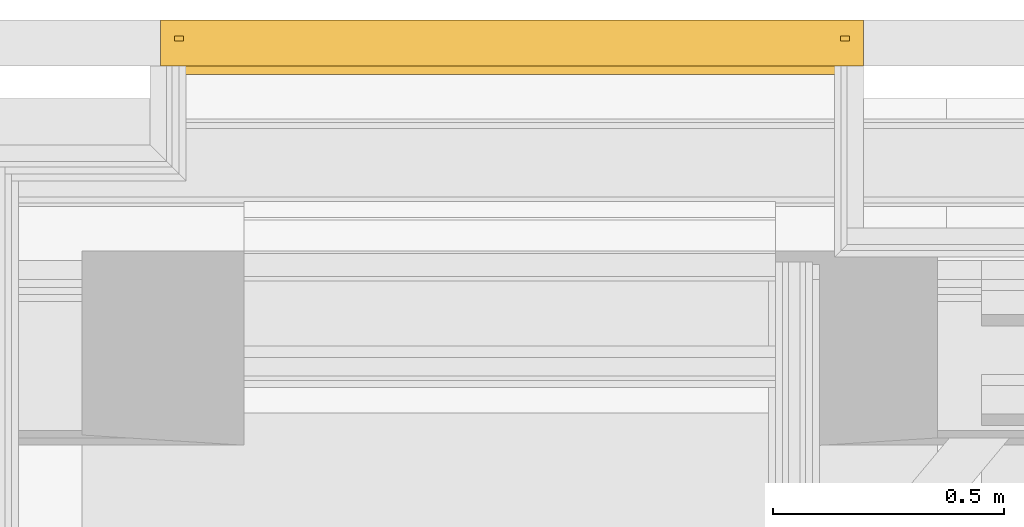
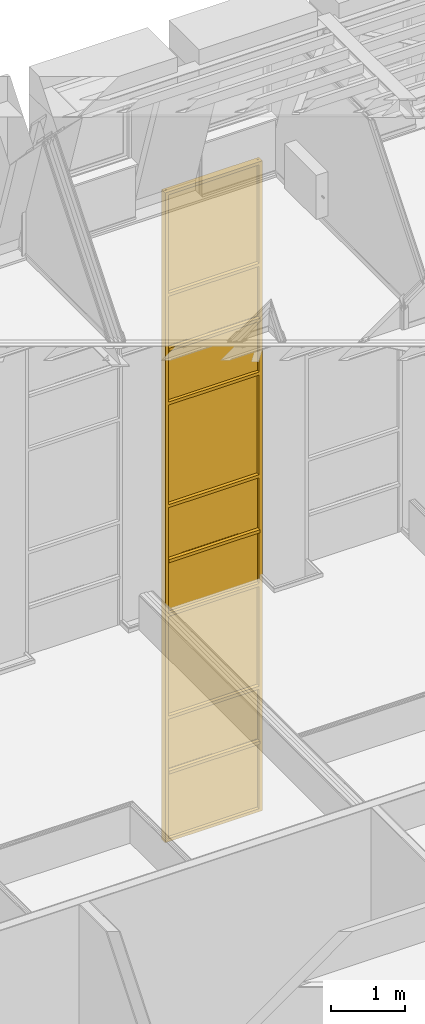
# One storey, part 148 of 183: 1 curtain wall.
"""IFC2X3 building model written with IfcOpenShell, lengths in metres."""

import ifcopenshell
import ifcopenshell.guid

model = None  # the IFC model being written
_history = None  # IfcOwnerHistory: only IFC2X3 demands one
_inside = {}  # id of a spatial element -> (the spatial element, [elements in it])
_under = {}  # id of a project, library or spatial element -> (it, [spatial elements below it])
_declared = {}  # id of a project -> (the project, [libraries it declares])
_typed = {}  # id of a type object -> (the type object, [elements of that type])
_made_of = {}  # id of a material, layer set ... -> (it, [elements and type objects made of it])


def new_model(schema):
    """Start an empty IFC model of exactly this schema.

    Asked for "IFC4X3", IfcOpenShell would pick the latest addendum, in which some entities
    have other attributes; the version numbers below select the first issue.
    IFC2X3 requires an IfcOwnerHistory on every rooted entity: one is made here for all.
    """
    global model, _history
    if schema == "IFC4X3":
        model = ifcopenshell.file(schema_version=(4, 3, 0, 0))
    else:
        model = ifcopenshell.file(schema=schema)
    _inside.clear()
    _under.clear()
    _declared.clear()
    _typed.clear()
    _made_of.clear()
    _history = None
    if model.schema == "IFC2X3":
        org = make("IfcOrganization", Name="unknown")
        user = make(
            "IfcPersonAndOrganization",
            ThePerson=make("IfcPerson", FamilyName="unknown"),
            TheOrganization=org,
        )
        app = make(
            "IfcApplication",
            ApplicationDeveloper=org,
            Version="unknown",
            ApplicationFullName="unknown",
            ApplicationIdentifier="unknown",
        )
        _history = make(
            "IfcOwnerHistory",
            OwningUser=user,
            OwningApplication=app,
            ChangeAction="ADDED",
            CreationDate=0,
        )
    return model


def make(cls, **values):
    """One entity of the class cls with the attributes given. An attribute that is None is left unset."""
    return model.create_entity(
        cls, **{name: value for name, value in values.items() if value is not None}
    )


def entity(cls, *values):
    """Any entity or typed value of the class cls, its attributes in the order of the schema. None: left unset."""
    e = model.create_entity(cls)
    for i, value in enumerate(values):
        if value is not None:
            e[i] = value
    return e


def rooted(cls, **values):
    """An entity with a GlobalId (a new one), such as an element, a storey or a relation."""
    return make(cls, GlobalId=ifcopenshell.guid.new(), OwnerHistory=_history, **values)


def si_unit(unit_type, name, prefix=None):
    """IfcSIUnit, for example si_unit("LENGTHUNIT", "METRE", prefix="MILLI")."""
    return make("IfcSIUnit", UnitType=unit_type, Prefix=prefix, Name=name)


def converted_unit(unit_type, name, factor, base, dimensions=None, offset=None):
    """IfcConversionBasedUnit, such as the inch: factor (a typed value) times the base unit."""
    return make(
        "IfcConversionBasedUnit"
        if offset is None
        else "IfcConversionBasedUnitWithOffset",
        ConversionOffset=offset,
        Dimensions=None
        if dimensions is None
        else entity("IfcDimensionalExponents", *dimensions),
        UnitType=unit_type,
        Name=name,
        ConversionFactor=make(
            "IfcMeasureWithUnit", ValueComponent=factor, UnitComponent=base
        ),
    )


def derived_unit(unit_type, elements):
    """IfcDerivedUnit: a product of units, each with its exponent."""
    return make(
        "IfcDerivedUnit",
        Elements=[
            make("IfcDerivedUnitElement", Unit=unit, Exponent=power)
            for unit, power in elements
        ],
        UnitType=unit_type,
    )


def money_unit(currency):
    """IfcMonetaryUnit."""
    return make("IfcMonetaryUnit", Currency=currency)


def assignment(units):
    """IfcUnitAssignment: the units of a project."""
    return None if units is None else make("IfcUnitAssignment", Units=units)


def point(xyz):
    """IfcCartesianPoint."""
    return None if xyz is None else make("IfcCartesianPoint", Coordinates=xyz)


def direction(xyz):
    """IfcDirection."""
    return None if xyz is None else make("IfcDirection", DirectionRatios=xyz)


def frame(location, z_axis=None, x_axis=None):
    """IfcAxis2Placement3D, a coordinate frame: its origin and axes. An axis left out is left unset."""
    return make(
        "IfcAxis2Placement3D",
        Location=point(location),
        Axis=direction(z_axis),
        RefDirection=direction(x_axis),
    )


def origin_with_axes():
    """The frame at (0, 0, 0) with the z axis (0, 0, 1) and the x axis (1, 0, 0) written out."""
    return frame((0.0, 0.0, 0.0), z_axis=(0.0, 0.0, 1.0), x_axis=(1.0, 0.0, 0.0))


def place(relative_to, where):
    """IfcLocalPlacement: puts the frame where relative to a parent placement (None: the world)."""
    return make(
        "IfcLocalPlacement", PlacementRelTo=relative_to, RelativePlacement=where
    )


def context(
    kind, dimensions, precision=None, world=None, true_north=None, identifier=None
):
    """IfcGeometricRepresentationContext, for example the 3D "Model" context."""
    return make(
        "IfcGeometricRepresentationContext",
        ContextIdentifier=identifier,
        ContextType=kind,
        CoordinateSpaceDimension=dimensions,
        Precision=precision,
        WorldCoordinateSystem=world,
        TrueNorth=true_north,
    )


def subcontext(parent, identifier, kind, view, scale=None):
    """IfcGeometricRepresentationSubContext, for example "Body" below "Model"."""
    return make(
        "IfcGeometricRepresentationSubContext",
        ContextIdentifier=identifier,
        ContextType=kind,
        ParentContext=parent,
        TargetScale=scale,
        TargetView=view,
    )


def project(units=None, contexts=None):
    """IfcProject with its units and contexts."""
    return rooted(
        "IfcProject",
        Name="project",
        RepresentationContexts=contexts,
        UnitsInContext=assignment(units),
    )


def spatial(cls, under=None, at=None, **own):
    """A site, building, storey or space (cls), placed at a placement, below another one or the project."""
    s = rooted(cls, ObjectPlacement=at, **own)
    if under is not None:
        _under.setdefault(under.id(), (under, []))[1].append(s)
    return s


def faces_of(points, faces, orient=None, outer=None):
    """IfcFace entities. A face is a list of loops; a loop is a list of indices into points, from 0.

    orient and outer hold one flag for each loop. By default every Orientation is true, the
    first loop of a face is its IfcFaceOuterBound and the others are IfcFaceBound.
    """
    made = []
    for i, loops in enumerate(faces):
        bounds = []
        for j, loop in enumerate(loops):
            is_outer = j == 0 if outer is None else outer[i][j]
            bounds.append(
                make(
                    "IfcFaceOuterBound" if is_outer else "IfcFaceBound",
                    Bound=make("IfcPolyLoop", Polygon=[points[k] for k in loop]),
                    Orientation=True if orient is None else orient[i][j],
                )
            )
        made.append(make("IfcFace", Bounds=bounds))
    return made


def faceted_brep(points, faces, orient=None, outer=None, voids=None):
    """IfcFacetedBrep: a solid bounded by flat faces; with voids (closed shells), ...WithVoids."""
    shared = [point(p) for p in points]
    hull = make("IfcClosedShell", CfsFaces=faces_of(shared, faces, orient, outer))
    if voids is None:
        return make("IfcFacetedBrep", Outer=hull)
    return make(
        "IfcFacetedBrepWithVoids",
        Outer=hull,
        Voids=[
            make(cls, CfsFaces=faces_of(shared, fs, o, b)) for cls, fs, o, b in voids
        ],
    )


def shape(context_of_items, identifier, shape_type, items):
    """IfcShapeRepresentation: the items that make up one representation, for example the "Body"."""
    return make(
        "IfcShapeRepresentation",
        ContextOfItems=context_of_items,
        RepresentationIdentifier=identifier,
        RepresentationType=shape_type,
        Items=items,
    )


def material(Name=None, Category=None):
    """IfcMaterial."""
    return make("IfcMaterial", Name=Name, Category=Category)


def made_of(thing, what):
    """Note that an element or type object is made of a material, layer set ...; save() writes the relation."""
    if what is not None:
        _made_of.setdefault(what.id(), (what, []))[1].append(thing)
    return thing


def type_object(cls, material=None, **own):
    """A type object (cls), such as IfcWallType, which elements share."""
    return made_of(rooted(cls, **own), material)


def element(
    cls,
    number,
    at=None,
    inside=None,
    cuts=None,
    type_object=None,
    material=None,
    context=None,
    identifier="Body",
    shape_type=None,
    held_by="IfcProductDefinitionShape",
    body=None,
    shapes=None,
    **own,
):
    """One element of the class cls, such as IfcWall. Its Tag is "e" and its number.

    at: its placement. inside: the storey or other place that contains it. cuts: it is an
    opening in that element (IfcRelVoidsElement). A single representation is given by context,
    identifier, shape_type and body (its items); several are given by shapes. held_by: the class
    of the entity that holds the representations. save() writes the other relations.
    """
    e = rooted(cls, Tag="e%d" % number, ObjectPlacement=at, **own)
    if body is not None:
        shapes = [shape(context, identifier, shape_type, body)]
    if shapes is not None:
        e.Representation = make(held_by, Representations=shapes)
    if inside is not None:
        _inside.setdefault(inside.id(), (inside, []))[1].append(e)
    if cuts is not None:
        rooted(
            "IfcRelVoidsElement", RelatingBuildingElement=cuts, RelatedOpeningElement=e
        )
    if type_object is not None:
        _typed.setdefault(type_object.id(), (type_object, []))[1].append(e)
    return made_of(e, material)


def aggregate(whole, parts):
    """IfcRelAggregates: a whole, such as a stair, and the parts it consists of."""
    return rooted("IfcRelAggregates", RelatingObject=whole, RelatedObjects=parts)


def save(model, path):
    """Write the relations noted so far, then the file.

    IfcRelAggregates (storeys below a building ...), IfcRelContainedInSpatialStructure (elements
    in a storey), IfcRelDefinesByType, IfcRelAssociatesMaterial and IfcRelDeclares: one each for
    every whole, place, type object, material and project.
    """
    for whole, parts in _under.values():
        aggregate(whole, parts)
    for where, things in _inside.values():
        rooted(
            "IfcRelContainedInSpatialStructure",
            RelatedElements=things,
            RelatingStructure=where,
        )
    for kind, things in _typed.values():
        rooted("IfcRelDefinesByType", RelatedObjects=things, RelatingType=kind)
    for what, things in _made_of.values():
        rooted("IfcRelAssociatesMaterial", RelatedObjects=things, RelatingMaterial=what)
    for by, libraries in _declared.values():
        rooted("IfcRelDeclares", RelatingContext=by, RelatedDefinitions=libraries)
    model.write(path)


model = new_model("IFC2X3")

# Units and contexts
model_context = context("Model", 3, precision=1e-05, world=origin_with_axes(), true_north=direction((0.0, 1.0)))
body_context = subcontext(model_context, "Body", "Model", "MODEL_VIEW", scale=1.0)
ifc_project = project(units=[si_unit("LENGTHUNIT", "METRE"), si_unit("AREAUNIT", "SQUARE_METRE"), si_unit("VOLUMEUNIT", "CUBIC_METRE"), si_unit("ABSORBEDDOSEUNIT", "GRAY"), si_unit("AMOUNTOFSUBSTANCEUNIT", "MOLE"), si_unit("DOSEEQUIVALENTUNIT", "SIEVERT"), si_unit("ELECTRICCAPACITANCEUNIT", "FARAD"), si_unit("ELECTRICCHARGEUNIT", "COULOMB"), si_unit("ELECTRICCONDUCTANCEUNIT", "SIEMENS"), si_unit("ELECTRICCURRENTUNIT", "AMPERE"), si_unit("ELECTRICRESISTANCEUNIT", "OHM"), si_unit("ELECTRICVOLTAGEUNIT", "VOLT"), si_unit("ENERGYUNIT", "JOULE"), si_unit("FORCEUNIT", "NEWTON"), si_unit("FREQUENCYUNIT", "HERTZ"), si_unit("ILLUMINANCEUNIT", "LUX"), si_unit("INDUCTANCEUNIT", "HENRY"), si_unit("LUMINOUSFLUXUNIT", "LUMEN"), si_unit("LUMINOUSINTENSITYUNIT", "CANDELA"), si_unit("MAGNETICFLUXDENSITYUNIT", "TESLA"), si_unit("MAGNETICFLUXUNIT", "WEBER"), si_unit("MASSUNIT", "GRAM"), converted_unit("PLANEANGLEUNIT", "degree", entity("IfcReal", 0.0174532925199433), si_unit("PLANEANGLEUNIT", "RADIAN"), dimensions=[0, 0, 0, 0, 0, 0, 0]), si_unit("POWERUNIT", "WATT"), si_unit("PRESSUREUNIT", "PASCAL"), si_unit("RADIOACTIVITYUNIT", "BECQUEREL"), si_unit("SOLIDANGLEUNIT", "STERADIAN"), si_unit("THERMODYNAMICTEMPERATUREUNIT", "KELVIN"), si_unit("TIMEUNIT", "SECOND"), derived_unit("ACCELERATIONUNIT", [(si_unit("LENGTHUNIT", "METRE"), 1), (si_unit("TIMEUNIT", "SECOND"), -2)]), derived_unit("ANGULARVELOCITYUNIT", [(converted_unit("PLANEANGLEUNIT", "degree", entity("IfcReal", 0.0174532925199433), si_unit("PLANEANGLEUNIT", "RADIAN"), dimensions=[0, 0, 0, 0, 0, 0, 0]), 1), (si_unit("TIMEUNIT", "SECOND"), -1)]), derived_unit("CURVATUREUNIT", [(converted_unit("PLANEANGLEUNIT", "degree", entity("IfcReal", 0.0174532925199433), si_unit("PLANEANGLEUNIT", "RADIAN"), dimensions=[0, 0, 0, 0, 0, 0, 0]), 1), (si_unit("LENGTHUNIT", "METRE"), -1)]), derived_unit("DYNAMICVISCOSITYUNIT", [(si_unit("PRESSUREUNIT", "PASCAL"), 1), (si_unit("TIMEUNIT", "SECOND"), 1)]), derived_unit("HEATFLUXDENSITYUNIT", [(si_unit("POWERUNIT", "WATT"), 1), (si_unit("LENGTHUNIT", "METRE"), -2)]), derived_unit("HEATINGVALUEUNIT", [(si_unit("ENERGYUNIT", "JOULE"), 1), (si_unit("MASSUNIT", "GRAM"), -1)]), derived_unit("INTEGERCOUNTRATEUNIT", [(si_unit("TIMEUNIT", "SECOND"), -1)]), derived_unit("IONCONCENTRATIONUNIT", [(si_unit("MASSUNIT", "GRAM"), 1), (si_unit("VOLUMEUNIT", "CUBIC_METRE"), -1)]), derived_unit("ISOTHERMALMOISTURECAPACITYUNIT", [(si_unit("VOLUMEUNIT", "CUBIC_METRE"), 1), (si_unit("MASSUNIT", "GRAM"), -1)]), derived_unit("KINEMATICVISCOSITYUNIT", [(si_unit("AREAUNIT", "SQUARE_METRE"), 1), (si_unit("TIMEUNIT", "SECOND"), -1)]), derived_unit("LINEARFORCEUNIT", [(si_unit("FORCEUNIT", "NEWTON"), 1), (si_unit("LENGTHUNIT", "METRE"), -1)]), derived_unit("LINEARMOMENTUNIT", [(si_unit("FORCEUNIT", "NEWTON"), 1), (si_unit("LENGTHUNIT", "METRE"), -1)]), derived_unit("LINEARSTIFFNESSUNIT", [(si_unit("FORCEUNIT", "NEWTON"), 1), (si_unit("LENGTHUNIT", "METRE"), -1)]), derived_unit("LINEARVELOCITYUNIT", [(si_unit("LENGTHUNIT", "METRE"), 1), (si_unit("TIMEUNIT", "SECOND"), -1)]), derived_unit("LUMINOUSINTENSITYDISTRIBUTIONUNIT", [(si_unit("LUMINOUSINTENSITYUNIT", "CANDELA"), 1), (si_unit("LUMINOUSFLUXUNIT", "LUMEN"), -1)]), derived_unit("MASSDENSITYUNIT", [(si_unit("MASSUNIT", "GRAM"), 1), (si_unit("VOLUMEUNIT", "CUBIC_METRE"), -1)]), derived_unit("MASSFLOWRATEUNIT", [(si_unit("MASSUNIT", "GRAM"), 1), (si_unit("TIMEUNIT", "SECOND"), -1)]), derived_unit("MASSPERLENGTHUNIT", [(si_unit("MASSUNIT", "GRAM"), 1), (si_unit("LENGTHUNIT", "METRE"), -1)]), derived_unit("MODULUSOFELASTICITYUNIT", [(si_unit("FORCEUNIT", "NEWTON"), 1), (si_unit("AREAUNIT", "SQUARE_METRE"), -1)]), derived_unit("MODULUSOFLINEARSUBGRADEREACTIONUNIT", [(si_unit("FORCEUNIT", "NEWTON"), 1), (si_unit("LENGTHUNIT", "METRE"), -2)]), derived_unit("MODULUSOFROTATIONALSUBGRADEREACTIONUNIT", [(si_unit("FORCEUNIT", "NEWTON"), 1), (si_unit("LENGTHUNIT", "METRE"), 1)]), derived_unit("MODULUSOFSUBGRADEREACTIONUNIT", [(si_unit("FORCEUNIT", "NEWTON"), 1), (si_unit("VOLUMEUNIT", "CUBIC_METRE"), -1)]), derived_unit("MOISTUREDIFFUSIVITYUNIT", [(si_unit("VOLUMEUNIT", "CUBIC_METRE"), 1), (si_unit("TIMEUNIT", "SECOND"), -1)]), derived_unit("MOLECULARWEIGHTUNIT", [(si_unit("MASSUNIT", "GRAM"), 1), (si_unit("AMOUNTOFSUBSTANCEUNIT", "MOLE"), -1)]), derived_unit("PLANARFORCEUNIT", [(si_unit("FORCEUNIT", "NEWTON"), 1), (si_unit("LENGTHUNIT", "METRE"), -2)]), derived_unit("ROTATIONALFREQUENCYUNIT", [(si_unit("TIMEUNIT", "SECOND"), -1)]), derived_unit("ROTATIONALMASSUNIT", [(si_unit("MASSUNIT", "GRAM"), 1), (si_unit("LENGTHUNIT", "METRE"), 2)]), derived_unit("ROTATIONALSTIFFNESSUNIT", [(si_unit("FORCEUNIT", "NEWTON"), 1), (si_unit("LENGTHUNIT", "METRE"), 1), (converted_unit("PLANEANGLEUNIT", "degree", entity("IfcReal", 0.0174532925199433), si_unit("PLANEANGLEUNIT", "RADIAN"), dimensions=[0, 0, 0, 0, 0, 0, 0]), -1)]), derived_unit("SECTIONAREAINTEGRALUNIT", [(si_unit("LENGTHUNIT", "METRE"), 5)]), derived_unit("SECTIONMODULUSUNIT", [(si_unit("LENGTHUNIT", "METRE"), 3)]), derived_unit("SHEARMODULUSUNIT", [(si_unit("FORCEUNIT", "NEWTON"), 1), (si_unit("AREAUNIT", "SQUARE_METRE"), -1)]), derived_unit("SOUNDPOWERUNIT", [(si_unit("ENERGYUNIT", "JOULE"), 1), (si_unit("TIMEUNIT", "SECOND"), -1)]), derived_unit("SPECIFICHEATCAPACITYUNIT", [(si_unit("FORCEUNIT", "NEWTON"), 1), (si_unit("MASSUNIT", "GRAM"), -1), (si_unit("THERMODYNAMICTEMPERATUREUNIT", "KELVIN"), -1)]), derived_unit("TEMPERATUREGRADIENTUNIT", [(si_unit("THERMODYNAMICTEMPERATUREUNIT", "KELVIN"), 1), (si_unit("LENGTHUNIT", "METRE"), -1)]), derived_unit("THERMALADMITTANCEUNIT", [(si_unit("POWERUNIT", "WATT"), 1), (si_unit("AREAUNIT", "SQUARE_METRE"), -1), (si_unit("THERMODYNAMICTEMPERATUREUNIT", "KELVIN"), -1)]), derived_unit("THERMALCONDUCTANCEUNIT", [(si_unit("POWERUNIT", "WATT"), 1), (si_unit("LENGTHUNIT", "METRE"), -1), (si_unit("THERMODYNAMICTEMPERATUREUNIT", "KELVIN"), -1)]), derived_unit("THERMALEXPANSIONCOEFFICIENTUNIT", [(si_unit("THERMODYNAMICTEMPERATUREUNIT", "KELVIN"), -1)]), derived_unit("THERMALRESISTANCEUNIT", [(si_unit("AREAUNIT", "SQUARE_METRE"), 1), (si_unit("POWERUNIT", "WATT"), -1)]), derived_unit("THERMALTRANSMITTANCEUNIT", [(si_unit("POWERUNIT", "WATT"), 1), (si_unit("AREAUNIT", "SQUARE_METRE"), -1), (si_unit("THERMODYNAMICTEMPERATUREUNIT", "KELVIN"), -1)]), derived_unit("TORQUEUNIT", [(si_unit("FORCEUNIT", "NEWTON"), 1), (si_unit("LENGTHUNIT", "METRE"), 1)]), derived_unit("VAPORPERMEABILITYUNIT", [(si_unit("MASSUNIT", "GRAM"), 1), (si_unit("TIMEUNIT", "SECOND"), -1)]), derived_unit("VOLUMETRICFLOWRATEUNIT", [(si_unit("VOLUMEUNIT", "CUBIC_METRE"), 1), (si_unit("TIMEUNIT", "SECOND"), -1)]), derived_unit("WARPINGCONSTANTUNIT", [(si_unit("LENGTHUNIT", "METRE"), 6)]), derived_unit("WARPINGMOMENTUNIT", [(si_unit("FORCEUNIT", "NEWTON"), 1), (si_unit("LENGTHUNIT", "METRE"), 2)]), money_unit("GBP")], contexts=[model_context])

# Site, building, storey
site_placement = place(None, origin_with_axes())
site = spatial("IfcSite", under=ifc_project, at=site_placement, Name="Site", CompositionType="ELEMENT")
building_placement = place(site_placement, origin_with_axes())
building = spatial("IfcBuilding", under=site, at=building_placement, Name="Building01", CompositionType="ELEMENT")
storey_placement = place(building_placement, frame((0.0, 0.0, 5.15), z_axis=(0.0, 0.0, 1.0), x_axis=(1.0, 0.0, 0.0)))
storey = spatial("IfcBuildingStorey", under=building, at=storey_placement, Name="1F", CompositionType="ELEMENT", Elevation=5.15)

# Curtain wall
ifc_material = material(Name="A-CurtainWall_Frame")
curtain_wall_type = type_object("IfcCurtainWallType", Name="Pattern - Maximum Spacing", PredefinedType="NOTDEFINED")
curtain_wall_placement = place(storey_placement, frame((0.0, 0.0, -5.15), z_axis=(0.0, 0.0, 1.0), x_axis=(1.0, 0.0, 0.0)))
element("IfcCurtainWall", 1, at=curtain_wall_placement, inside=storey, type_object=curtain_wall_type, material=ifc_material, Name="05", ObjectType="Pattern - Maximum Spacing", context=body_context, shape_type="Brep", body=[
    faceted_brep([(17.52, 14.85, 5.118945), (17.52, 14.87, 5.118945), (16.06, 14.87, 5.118945), (16.06, 14.85, 5.118945), (17.52, 14.85, 4.0), (17.52, 14.87, 4.0), (16.06, 14.85, 4.0), (16.06, 14.87, 4.0)], [[[0, 1, 2, 3]], [[4, 5, 1, 0]], [[6, 7, 5, 4]], [[3, 2, 7, 6]], [[1, 5, 7, 2]], [[3, 6, 4, 0]]]),
    faceted_brep([(16.03, 14.9, 3.97), (16.08, 14.9, 3.97), (16.08, 14.865, 3.97), (16.06, 14.865, 3.97), (16.06, 14.855, 3.97), (16.08, 14.855, 3.97), (16.08, 14.8, 3.97), (16.03, 14.8, 3.97), (16.03, 14.8, 5.123945), (16.03, 14.9, 5.123945), (16.08, 14.9, 5.123945), (16.08, 14.865, 5.123945), (16.06, 14.865, 5.123945), (16.06, 14.855, 5.123945), (16.08, 14.855, 5.123945), (16.08, 14.8, 5.123945)], [[[0, 1, 2, 3, 4, 5, 6, 7]], [[7, 8, 9, 0]], [[0, 9, 10, 1]], [[1, 10, 11, 2]], [[2, 11, 12, 3]], [[3, 12, 13, 4]], [[4, 13, 14, 5]], [[5, 14, 15, 6]], [[6, 15, 8, 7]]]),
    faceted_brep([(17.5, 14.9, 4.02), (17.5, 14.865, 4.02), (17.5, 14.865, 4.0), (17.5, 14.855, 4.0), (17.5, 14.855, 4.02), (17.5, 14.8, 4.02), (17.5, 14.8, 3.97), (17.5, 14.9, 3.97), (16.08, 14.9, 3.97), (16.08, 14.9, 4.02), (16.08, 14.865, 4.02), (16.08, 14.865, 4.0), (16.08, 14.855, 4.0), (16.08, 14.855, 4.02), (16.08, 14.8, 4.02), (16.08, 14.8, 3.97)], [[[0, 1, 2, 3, 4, 5, 6, 7]], [[7, 8, 9, 0]], [[0, 9, 10, 1]], [[1, 10, 11, 2]], [[2, 11, 12, 3]], [[3, 12, 13, 4]], [[4, 13, 14, 5]], [[5, 14, 15, 6]], [[6, 15, 8, 7]], [[8, 15, 14, 13, 12, 11, 10, 9]]]),
    faceted_brep([(17.55, 14.9, 3.97), (17.55, 14.9, 5.123945), (17.55, 14.8, 5.123945), (17.55, 14.8, 3.97), (17.5, 14.9, 3.97), (17.5, 14.9, 5.123945), (17.5, 14.865, 3.97), (17.5, 14.865, 5.123945), (17.52, 14.865, 3.97), (17.52, 14.865, 5.123945), (17.52, 14.855, 3.97), (17.52, 14.855, 5.123945), (17.5, 14.855, 3.97), (17.5, 14.855, 5.123945), (17.5, 14.8, 3.97), (17.5, 14.8, 5.123945)], [[[0, 1, 2, 3]], [[4, 5, 1, 0]], [[6, 7, 5, 4]], [[8, 9, 7, 6]], [[10, 11, 9, 8]], [[12, 13, 11, 10]], [[14, 15, 13, 12]], [[3, 2, 15, 14]], [[14, 12, 10, 8, 6, 4, 0, 3]]]),
    faceted_brep([(16.08, 14.8375, 5.128945), (16.08, 14.8475, 5.128945), (16.08, 14.8475, 5.148945), (16.08, 14.8825, 5.148945), (16.08, 14.8825, 5.098945), (16.08, 14.8475, 5.098945), (16.08, 14.8475, 5.118945), (16.08, 14.8375, 5.118945), (16.08, 14.8375, 5.098945), (16.08, 14.7825, 5.098945), (16.08, 14.7825, 5.148945), (16.08, 14.8375, 5.148945), (17.5, 14.8375, 5.148945), (17.5, 14.8375, 5.128945), (17.5, 14.8475, 5.128945), (17.5, 14.8475, 5.148945), (17.5, 14.8825, 5.148945), (17.5, 14.8825, 5.098945), (17.5, 14.8475, 5.098945), (17.5, 14.8375, 5.118945), (17.5, 14.8375, 5.098945), (17.5, 14.8475, 5.118945), (17.5, 14.7825, 5.148945), (17.5, 14.7825, 5.098945)], [[[0, 1, 2, 3, 4, 5, 6, 7, 8, 9, 10, 11]], [[11, 12, 13, 0]], [[0, 13, 14, 1]], [[1, 14, 15, 2]], [[2, 15, 16, 3]], [[3, 16, 17, 4]], [[4, 17, 18, 5]], [[7, 19, 20, 8]], [[6, 21, 19, 7]], [[5, 18, 21, 6]], [[10, 22, 12, 11]], [[9, 23, 22, 10]], [[8, 20, 23, 9]], [[20, 19, 21, 18, 17, 16, 15, 14, 13, 12, 22, 23]]]),
    faceted_brep([(17.52, 14.85, 6.018105), (17.52, 14.87, 6.018105), (16.06, 14.87, 6.018105), (16.06, 14.85, 6.018105), (17.52, 14.85, 5.128945), (17.52, 14.87, 5.128945), (16.06, 14.85, 5.128945), (16.06, 14.87, 5.128945)], [[[0, 1, 2, 3]], [[4, 5, 1, 0]], [[6, 7, 5, 4]], [[3, 2, 7, 6]], [[1, 5, 7, 2]], [[3, 6, 4, 0]]]),
    faceted_brep([(16.08, 14.8, 6.023105), (16.08, 14.8, 5.123945), (16.08, 14.855, 5.123945), (16.08, 14.855, 6.023105), (16.03, 14.8, 6.023105), (16.03, 14.8, 5.123945), (16.03, 14.9, 6.023105), (16.03, 14.9, 5.123945), (16.08, 14.9, 6.023105), (16.08, 14.9, 5.123945), (16.08, 14.865, 6.023105), (16.08, 14.865, 5.123945), (16.06, 14.865, 6.023105), (16.06, 14.865, 5.123945), (16.06, 14.855, 6.023105), (16.06, 14.855, 5.123945)], [[[0, 1, 2, 3]], [[4, 5, 1, 0]], [[6, 7, 5, 4]], [[8, 9, 7, 6]], [[10, 11, 9, 8]], [[12, 13, 11, 10]], [[14, 15, 13, 12]], [[3, 2, 15, 14]]]),
    faceted_brep([(17.55, 14.9, 5.123945), (17.55, 14.9, 6.023105), (17.55, 14.8, 6.023105), (17.55, 14.8, 5.123945), (17.5, 14.9, 5.123945), (17.5, 14.9, 6.023105), (17.5, 14.865, 5.123945), (17.5, 14.865, 6.023105), (17.52, 14.865, 5.123945), (17.52, 14.865, 6.023105), (17.52, 14.855, 5.123945), (17.52, 14.855, 6.023105), (17.5, 14.855, 5.123945), (17.5, 14.855, 6.023105), (17.5, 14.8, 5.123945), (17.5, 14.8, 6.023105)], [[[0, 1, 2, 3]], [[4, 5, 1, 0]], [[6, 7, 5, 4]], [[8, 9, 7, 6]], [[10, 11, 9, 8]], [[12, 13, 11, 10]], [[14, 15, 13, 12]], [[3, 2, 15, 14]]]),
    faceted_brep([(16.08, 14.855, 6.028105), (16.08, 14.865, 6.028105), (16.08, 14.865, 6.048105), (16.08, 14.9, 6.048105), (16.08, 14.9, 5.998105), (16.08, 14.865, 5.998105), (16.08, 14.865, 6.018105), (16.08, 14.855, 6.018105), (16.08, 14.855, 5.998105), (16.08, 14.8, 5.998105), (16.08, 14.8, 6.048105), (16.08, 14.855, 6.048105), (17.5, 14.855, 6.048105), (17.5, 14.855, 6.028105), (17.5, 14.865, 6.028105), (17.5, 14.865, 6.048105), (17.5, 14.9, 6.048105), (17.5, 14.9, 5.998105), (17.5, 14.865, 5.998105), (17.5, 14.855, 6.018105), (17.5, 14.855, 5.998105), (17.5, 14.865, 6.018105), (17.5, 14.8, 6.048105), (17.5, 14.8, 5.998105)], [[[0, 1, 2, 3, 4, 5, 6, 7, 8, 9, 10, 11]], [[11, 12, 13, 0]], [[0, 13, 14, 1]], [[1, 14, 15, 2]], [[2, 15, 16, 3]], [[3, 16, 17, 4]], [[4, 17, 18, 5]], [[7, 19, 20, 8]], [[6, 21, 19, 7]], [[5, 18, 21, 6]], [[10, 22, 12, 11]], [[9, 23, 22, 10]], [[8, 20, 23, 9]], [[20, 19, 21, 18, 17, 16, 15, 14, 13, 12, 22, 23]]]),
    faceted_brep([(17.52, 14.855, 7.716517), (17.52, 14.865, 7.716517), (16.06, 14.865, 7.716517), (16.06, 14.855, 7.716517), (17.52, 14.855, 6.028105), (17.52, 14.865, 6.028105), (16.06, 14.855, 6.028105), (16.06, 14.865, 6.028105)], [[[0, 1, 2, 3]], [[4, 5, 1, 0]], [[6, 7, 5, 4]], [[3, 2, 7, 6]], [[1, 5, 7, 2]], [[3, 6, 4, 0]]]),
    faceted_brep([(16.08, 14.8, 7.721517), (16.08, 14.8, 6.023105), (16.08, 14.855, 6.023105), (16.08, 14.855, 7.721517), (16.03, 14.8, 7.721517), (16.03, 14.8, 6.023105), (16.03, 14.9, 7.721517), (16.03, 14.9, 6.023105), (16.08, 14.9, 7.721517), (16.08, 14.9, 6.023105), (16.08, 14.865, 7.721517), (16.08, 14.865, 6.023105), (16.06, 14.865, 7.721517), (16.06, 14.865, 6.023105), (16.06, 14.855, 7.721517), (16.06, 14.855, 6.023105)], [[[0, 1, 2, 3]], [[4, 5, 1, 0]], [[6, 7, 5, 4]], [[8, 9, 7, 6]], [[10, 11, 9, 8]], [[12, 13, 11, 10]], [[14, 15, 13, 12]], [[3, 2, 15, 14]]]),
    faceted_brep([(17.55, 14.9, 6.023105), (17.55, 14.9, 7.721517), (17.55, 14.8, 7.721517), (17.55, 14.8, 6.023105), (17.5, 14.9, 6.023105), (17.5, 14.9, 7.721517), (17.5, 14.865, 6.023105), (17.5, 14.865, 7.721517), (17.52, 14.865, 6.023105), (17.52, 14.865, 7.721517), (17.52, 14.855, 6.023105), (17.52, 14.855, 7.721517), (17.5, 14.855, 6.023105), (17.5, 14.855, 7.721517), (17.5, 14.8, 6.023105), (17.5, 14.8, 7.721517)], [[[0, 1, 2, 3]], [[4, 5, 1, 0]], [[6, 7, 5, 4]], [[8, 9, 7, 6]], [[10, 11, 9, 8]], [[12, 13, 11, 10]], [[14, 15, 13, 12]], [[3, 2, 15, 14]]]),
    faceted_brep([(16.08, 14.855, 7.726517), (16.08, 14.865, 7.726517), (16.08, 14.865, 7.746517), (16.08, 14.9, 7.746517), (16.08, 14.9, 7.696517), (16.08, 14.865, 7.696517), (16.08, 14.865, 7.716517), (16.08, 14.855, 7.716517), (16.08, 14.855, 7.696517), (16.08, 14.8, 7.696517), (16.08, 14.8, 7.746517), (16.08, 14.855, 7.746517), (17.5, 14.855, 7.746517), (17.5, 14.855, 7.726517), (17.5, 14.865, 7.726517), (17.5, 14.865, 7.746517), (17.5, 14.9, 7.746517), (17.5, 14.9, 7.696517), (17.5, 14.865, 7.696517), (17.5, 14.855, 7.716517), (17.5, 14.855, 7.696517), (17.5, 14.865, 7.716517), (17.5, 14.8, 7.746517), (17.5, 14.8, 7.696517)], [[[0, 1, 2, 3, 4, 5, 6, 7, 8, 9, 10, 11]], [[11, 12, 13, 0]], [[0, 13, 14, 1]], [[1, 14, 15, 2]], [[2, 15, 16, 3]], [[3, 16, 17, 4]], [[4, 17, 18, 5]], [[7, 19, 20, 8]], [[6, 21, 19, 7]], [[5, 18, 21, 6]], [[10, 22, 12, 11]], [[9, 23, 22, 10]], [[8, 20, 23, 9]], [[20, 19, 21, 18, 17, 16, 15, 14, 13, 12, 22, 23]]]),
    faceted_brep([(17.52, 14.85, 8.615677), (17.52, 14.87, 8.615677), (16.06, 14.87, 8.615677), (16.06, 14.85, 8.615677), (17.52, 14.85, 7.726517), (17.52, 14.87, 7.726517), (16.06, 14.85, 7.726517), (16.06, 14.87, 7.726517)], [[[0, 1, 2, 3]], [[4, 5, 1, 0]], [[6, 7, 5, 4]], [[3, 2, 7, 6]], [[1, 5, 7, 2]], [[3, 6, 4, 0]]]),
    faceted_brep([(16.08, 14.8, 8.620677), (16.08, 14.8, 7.721517), (16.08, 14.855, 7.721517), (16.08, 14.855, 8.620677), (16.03, 14.8, 8.620677), (16.03, 14.8, 7.721517), (16.03, 14.9, 8.620677), (16.03, 14.9, 7.721517), (16.08, 14.9, 8.620677), (16.08, 14.9, 7.721517), (16.08, 14.865, 8.620677), (16.08, 14.865, 7.721517), (16.06, 14.865, 8.620677), (16.06, 14.865, 7.721517), (16.06, 14.855, 8.620677), (16.06, 14.855, 7.721517)], [[[0, 1, 2, 3]], [[4, 5, 1, 0]], [[6, 7, 5, 4]], [[8, 9, 7, 6]], [[10, 11, 9, 8]], [[12, 13, 11, 10]], [[14, 15, 13, 12]], [[3, 2, 15, 14]]]),
    faceted_brep([(17.55, 14.9, 7.721517), (17.55, 14.9, 8.620677), (17.55, 14.8, 8.620677), (17.55, 14.8, 7.721517), (17.5, 14.9, 7.721517), (17.5, 14.9, 8.620677), (17.5, 14.865, 7.721517), (17.5, 14.865, 8.620677), (17.52, 14.865, 7.721517), (17.52, 14.865, 8.620677), (17.52, 14.855, 7.721517), (17.52, 14.855, 8.620677), (17.5, 14.855, 7.721517), (17.5, 14.855, 8.620677), (17.5, 14.8, 7.721517), (17.5, 14.8, 8.620677)], [[[0, 1, 2, 3]], [[4, 5, 1, 0]], [[6, 7, 5, 4]], [[8, 9, 7, 6]], [[10, 11, 9, 8]], [[12, 13, 11, 10]], [[14, 15, 13, 12]], [[3, 2, 15, 14]]]),
    faceted_brep([(16.08, 14.8375, 8.625677), (16.08, 14.8475, 8.625677), (16.08, 14.8475, 8.645677), (16.08, 14.8825, 8.645677), (16.08, 14.8825, 8.595677), (16.08, 14.8475, 8.595677), (16.08, 14.8475, 8.615677), (16.08, 14.8375, 8.615677), (16.08, 14.8375, 8.595677), (16.08, 14.7825, 8.595677), (16.08, 14.7825, 8.645677), (16.08, 14.8375, 8.645677), (17.5, 14.8375, 8.645677), (17.5, 14.8375, 8.625677), (17.5, 14.8475, 8.625677), (17.5, 14.8475, 8.645677), (17.5, 14.8825, 8.645677), (17.5, 14.8825, 8.595677), (17.5, 14.8475, 8.595677), (17.5, 14.8375, 8.615677), (17.5, 14.8375, 8.595677), (17.5, 14.8475, 8.615677), (17.5, 14.7825, 8.645677), (17.5, 14.7825, 8.595677)], [[[0, 1, 2, 3, 4, 5, 6, 7, 8, 9, 10, 11]], [[11, 12, 13, 0]], [[0, 13, 14, 1]], [[1, 14, 15, 2]], [[2, 15, 16, 3]], [[3, 16, 17, 4]], [[4, 17, 18, 5]], [[7, 19, 20, 8]], [[6, 21, 19, 7]], [[5, 18, 21, 6]], [[10, 22, 12, 11]], [[9, 23, 22, 10]], [[8, 20, 23, 9]], [[20, 19, 21, 18, 17, 16, 15, 14, 13, 12, 22, 23]]]),
    faceted_brep([(17.52, 14.85, 9.514837), (17.52, 14.87, 9.514837), (16.06, 14.87, 9.514837), (16.06, 14.85, 9.514837), (17.52, 14.85, 8.625677), (17.52, 14.87, 8.625677), (16.06, 14.85, 8.625677), (16.06, 14.87, 8.625677)], [[[0, 1, 2, 3]], [[4, 5, 1, 0]], [[6, 7, 5, 4]], [[3, 2, 7, 6]], [[1, 5, 7, 2]], [[3, 6, 4, 0]]]),
    faceted_brep([(16.08, 14.8, 9.519837), (16.08, 14.8, 8.620677), (16.08, 14.855, 8.620677), (16.08, 14.855, 9.519837), (16.03, 14.8, 9.519837), (16.03, 14.8, 8.620677), (16.03, 14.9, 9.519837), (16.03, 14.9, 8.620677), (16.08, 14.9, 9.519837), (16.08, 14.9, 8.620677), (16.08, 14.865, 9.519837), (16.08, 14.865, 8.620677), (16.06, 14.865, 9.519837), (16.06, 14.865, 8.620677), (16.06, 14.855, 9.519837), (16.06, 14.855, 8.620677)], [[[0, 1, 2, 3]], [[4, 5, 1, 0]], [[6, 7, 5, 4]], [[8, 9, 7, 6]], [[10, 11, 9, 8]], [[12, 13, 11, 10]], [[14, 15, 13, 12]], [[3, 2, 15, 14]]]),
    faceted_brep([(17.55, 14.9, 8.620677), (17.55, 14.9, 9.519837), (17.55, 14.8, 9.519837), (17.55, 14.8, 8.620677), (17.5, 14.9, 8.620677), (17.5, 14.9, 9.519837), (17.5, 14.865, 8.620677), (17.5, 14.865, 9.519837), (17.52, 14.865, 8.620677), (17.52, 14.865, 9.519837), (17.52, 14.855, 8.620677), (17.52, 14.855, 9.519837), (17.5, 14.855, 8.620677), (17.5, 14.855, 9.519837), (17.5, 14.8, 8.620677), (17.5, 14.8, 9.519837)], [[[0, 1, 2, 3]], [[4, 5, 1, 0]], [[6, 7, 5, 4]], [[8, 9, 7, 6]], [[10, 11, 9, 8]], [[12, 13, 11, 10]], [[14, 15, 13, 12]], [[3, 2, 15, 14]]]),
    faceted_brep([(16.08, 14.855, 9.524837), (16.08, 14.865, 9.524837), (16.08, 14.865, 9.544837), (16.08, 14.9, 9.544837), (16.08, 14.9, 9.494837), (16.08, 14.865, 9.494837), (16.08, 14.865, 9.514837), (16.08, 14.855, 9.514837), (16.08, 14.855, 9.494837), (16.08, 14.8, 9.494837), (16.08, 14.8, 9.544837), (16.08, 14.855, 9.544837), (17.5, 14.855, 9.544837), (17.5, 14.855, 9.524837), (17.5, 14.865, 9.524837), (17.5, 14.865, 9.544837), (17.5, 14.9, 9.544837), (17.5, 14.9, 9.494837), (17.5, 14.865, 9.494837), (17.5, 14.855, 9.514837), (17.5, 14.855, 9.494837), (17.5, 14.865, 9.514837), (17.5, 14.8, 9.544837), (17.5, 14.8, 9.494837)], [[[0, 1, 2, 3, 4, 5, 6, 7, 8, 9, 10, 11]], [[11, 12, 13, 0]], [[0, 13, 14, 1]], [[1, 14, 15, 2]], [[2, 15, 16, 3]], [[3, 16, 17, 4]], [[4, 17, 18, 5]], [[7, 19, 20, 8]], [[6, 21, 19, 7]], [[5, 18, 21, 6]], [[10, 22, 12, 11]], [[9, 23, 22, 10]], [[8, 20, 23, 9]], [[20, 19, 21, 18, 17, 16, 15, 14, 13, 12, 22, 23]]]),
    faceted_brep([(17.52, 14.855, 11.213249), (17.52, 14.865, 11.213249), (16.06, 14.865, 11.213249), (16.06, 14.855, 11.213249), (17.52, 14.855, 9.524837), (17.52, 14.865, 9.524837), (16.06, 14.855, 9.524837), (16.06, 14.865, 9.524837)], [[[0, 1, 2, 3]], [[4, 5, 1, 0]], [[6, 7, 5, 4]], [[3, 2, 7, 6]], [[1, 5, 7, 2]], [[3, 6, 4, 0]]]),
    faceted_brep([(16.08, 14.8, 11.218249), (16.08, 14.8, 9.519837), (16.08, 14.855, 9.519837), (16.08, 14.855, 11.218249), (16.03, 14.8, 11.218249), (16.03, 14.8, 9.519837), (16.03, 14.9, 11.218249), (16.03, 14.9, 9.519837), (16.08, 14.9, 11.218249), (16.08, 14.9, 9.519837), (16.08, 14.865, 11.218249), (16.08, 14.865, 9.519837), (16.06, 14.865, 11.218249), (16.06, 14.865, 9.519837), (16.06, 14.855, 11.218249), (16.06, 14.855, 9.519837)], [[[0, 1, 2, 3]], [[4, 5, 1, 0]], [[6, 7, 5, 4]], [[8, 9, 7, 6]], [[10, 11, 9, 8]], [[12, 13, 11, 10]], [[14, 15, 13, 12]], [[3, 2, 15, 14]]]),
    faceted_brep([(17.55, 14.9, 9.519837), (17.55, 14.9, 11.218249), (17.55, 14.8, 11.218249), (17.55, 14.8, 9.519837), (17.5, 14.9, 9.519837), (17.5, 14.9, 11.218249), (17.5, 14.865, 9.519837), (17.5, 14.865, 11.218249), (17.52, 14.865, 9.519837), (17.52, 14.865, 11.218249), (17.52, 14.855, 9.519837), (17.52, 14.855, 11.218249), (17.5, 14.855, 9.519837), (17.5, 14.855, 11.218249), (17.5, 14.8, 9.519837), (17.5, 14.8, 11.218249)], [[[0, 1, 2, 3]], [[4, 5, 1, 0]], [[6, 7, 5, 4]], [[8, 9, 7, 6]], [[10, 11, 9, 8]], [[12, 13, 11, 10]], [[14, 15, 13, 12]], [[3, 2, 15, 14]]]),
    faceted_brep([(16.08, 14.855, 11.223249), (16.08, 14.865, 11.223249), (16.08, 14.865, 11.243249), (16.08, 14.9, 11.243249), (16.08, 14.9, 11.193249), (16.08, 14.865, 11.193249), (16.08, 14.865, 11.213249), (16.08, 14.855, 11.213249), (16.08, 14.855, 11.193249), (16.08, 14.8, 11.193249), (16.08, 14.8, 11.243249), (16.08, 14.855, 11.243249), (17.5, 14.855, 11.243249), (17.5, 14.855, 11.223249), (17.5, 14.865, 11.223249), (17.5, 14.865, 11.243249), (17.5, 14.9, 11.243249), (17.5, 14.9, 11.193249), (17.5, 14.865, 11.193249), (17.5, 14.855, 11.213249), (17.5, 14.855, 11.193249), (17.5, 14.865, 11.213249), (17.5, 14.8, 11.243249), (17.5, 14.8, 11.193249)], [[[0, 1, 2, 3, 4, 5, 6, 7, 8, 9, 10, 11]], [[11, 12, 13, 0]], [[0, 13, 14, 1]], [[1, 14, 15, 2]], [[2, 15, 16, 3]], [[3, 16, 17, 4]], [[4, 17, 18, 5]], [[7, 19, 20, 8]], [[6, 21, 19, 7]], [[5, 18, 21, 6]], [[10, 22, 12, 11]], [[9, 23, 22, 10]], [[8, 20, 23, 9]], [[20, 19, 21, 18, 17, 16, 15, 14, 13, 12, 22, 23]]]),
    faceted_brep([(17.52, 14.85, 12.112409), (17.52, 14.87, 12.112409), (16.06, 14.87, 12.112409), (16.06, 14.85, 12.112409), (17.52, 14.85, 11.223249), (17.52, 14.87, 11.223249), (16.06, 14.85, 11.223249), (16.06, 14.87, 11.223249)], [[[0, 1, 2, 3]], [[4, 5, 1, 0]], [[6, 7, 5, 4]], [[3, 2, 7, 6]], [[1, 5, 7, 2]], [[3, 6, 4, 0]]]),
    faceted_brep([(16.08, 14.8, 12.117409), (16.08, 14.8, 11.218249), (16.08, 14.855, 11.218249), (16.08, 14.855, 12.117409), (16.03, 14.8, 12.117409), (16.03, 14.8, 11.218249), (16.03, 14.9, 12.117409), (16.03, 14.9, 11.218249), (16.08, 14.9, 12.117409), (16.08, 14.9, 11.218249), (16.08, 14.865, 12.117409), (16.08, 14.865, 11.218249), (16.06, 14.865, 12.117409), (16.06, 14.865, 11.218249), (16.06, 14.855, 12.117409), (16.06, 14.855, 11.218249)], [[[0, 1, 2, 3]], [[4, 5, 1, 0]], [[6, 7, 5, 4]], [[8, 9, 7, 6]], [[10, 11, 9, 8]], [[12, 13, 11, 10]], [[14, 15, 13, 12]], [[3, 2, 15, 14]]]),
    faceted_brep([(17.55, 14.9, 11.218249), (17.55, 14.9, 12.117409), (17.55, 14.8, 12.117409), (17.55, 14.8, 11.218249), (17.5, 14.9, 11.218249), (17.5, 14.9, 12.117409), (17.5, 14.865, 11.218249), (17.5, 14.865, 12.117409), (17.52, 14.865, 11.218249), (17.52, 14.865, 12.117409), (17.52, 14.855, 11.218249), (17.52, 14.855, 12.117409), (17.5, 14.855, 11.218249), (17.5, 14.855, 12.117409), (17.5, 14.8, 11.218249), (17.5, 14.8, 12.117409)], [[[0, 1, 2, 3]], [[4, 5, 1, 0]], [[6, 7, 5, 4]], [[8, 9, 7, 6]], [[10, 11, 9, 8]], [[12, 13, 11, 10]], [[14, 15, 13, 12]], [[3, 2, 15, 14]]]),
    faceted_brep([(16.08, 14.8375, 12.122409), (16.08, 14.8475, 12.122409), (16.08, 14.8475, 12.142409), (16.08, 14.8825, 12.142409), (16.08, 14.8825, 12.092409), (16.08, 14.8475, 12.092409), (16.08, 14.8475, 12.112409), (16.08, 14.8375, 12.112409), (16.08, 14.8375, 12.092409), (16.08, 14.7825, 12.092409), (16.08, 14.7825, 12.142409), (16.08, 14.8375, 12.142409), (17.5, 14.8375, 12.142409), (17.5, 14.8375, 12.122409), (17.5, 14.8475, 12.122409), (17.5, 14.8475, 12.142409), (17.5, 14.8825, 12.142409), (17.5, 14.8825, 12.092409), (17.5, 14.8475, 12.092409), (17.5, 14.8375, 12.112409), (17.5, 14.8375, 12.092409), (17.5, 14.8475, 12.112409), (17.5, 14.7825, 12.142409), (17.5, 14.7825, 12.092409)], [[[0, 1, 2, 3, 4, 5, 6, 7, 8, 9, 10, 11]], [[11, 12, 13, 0]], [[0, 13, 14, 1]], [[1, 14, 15, 2]], [[2, 15, 16, 3]], [[3, 16, 17, 4]], [[4, 17, 18, 5]], [[7, 19, 20, 8]], [[6, 21, 19, 7]], [[5, 18, 21, 6]], [[10, 22, 12, 11]], [[9, 23, 22, 10]], [[8, 20, 23, 9]], [[20, 19, 21, 18, 17, 16, 15, 14, 13, 12, 22, 23]]]),
    faceted_brep([(16.06, 14.855, 13.021569), (16.06, 14.865, 13.021569), (17.52, 14.865, 13.021569), (17.52, 14.855, 13.021569), (16.06, 14.855, 14.69), (16.06, 14.865, 14.69), (17.52, 14.855, 14.69), (17.52, 14.865, 14.69)], [[[0, 1, 2, 3]], [[4, 5, 1, 0]], [[6, 7, 5, 4]], [[3, 2, 7, 6]], [[1, 5, 7, 2]], [[3, 6, 4, 0]]]),
    faceted_brep([(17.55, 14.9, 14.72), (17.5, 14.9, 14.72), (17.5, 14.865, 14.72), (17.52, 14.865, 14.72), (17.52, 14.855, 14.72), (17.5, 14.855, 14.72), (17.5, 14.8, 14.72), (17.55, 14.8, 14.72), (17.55, 14.8, 13.016569), (17.55, 14.9, 13.016569), (17.5, 14.9, 13.016569), (17.5, 14.865, 13.016569), (17.52, 14.865, 13.016569), (17.52, 14.855, 13.016569), (17.5, 14.855, 13.016569), (17.5, 14.8, 13.016569)], [[[0, 1, 2, 3, 4, 5, 6, 7]], [[7, 8, 9, 0]], [[0, 9, 10, 1]], [[1, 10, 11, 2]], [[2, 11, 12, 3]], [[3, 12, 13, 4]], [[4, 13, 14, 5]], [[5, 14, 15, 6]], [[6, 15, 8, 7]]]),
    faceted_brep([(16.08, 14.865, 14.69), (16.08, 14.855, 14.69), (16.08, 14.855, 14.67), (16.08, 14.8, 14.67), (16.08, 14.8, 14.72), (16.08, 14.9, 14.72), (16.08, 14.9, 14.67), (16.08, 14.865, 14.67), (17.5, 14.865, 14.67), (17.5, 14.865, 14.69), (17.5, 14.855, 14.69), (17.5, 14.855, 14.67), (17.5, 14.8, 14.67), (17.5, 14.8, 14.72), (17.5, 14.9, 14.72), (17.5, 14.9, 14.67)], [[[0, 1, 2, 3, 4, 5, 6, 7]], [[7, 8, 9, 0]], [[0, 9, 10, 1]], [[1, 10, 11, 2]], [[2, 11, 12, 3]], [[3, 12, 13, 4]], [[4, 13, 14, 5]], [[5, 14, 15, 6]], [[6, 15, 8, 7]], [[8, 15, 14, 13, 12, 11, 10, 9]]]),
    faceted_brep([(16.03, 14.9, 14.72), (16.03, 14.9, 13.016569), (16.03, 14.8, 13.016569), (16.03, 14.8, 14.72), (16.08, 14.9, 14.72), (16.08, 14.9, 13.016569), (16.08, 14.865, 14.72), (16.08, 14.865, 13.016569), (16.06, 14.865, 14.72), (16.06, 14.865, 13.016569), (16.06, 14.855, 14.72), (16.06, 14.855, 13.016569), (16.08, 14.855, 14.72), (16.08, 14.855, 13.016569), (16.08, 14.8, 14.72), (16.08, 14.8, 13.016569)], [[[0, 1, 2, 3]], [[4, 5, 1, 0]], [[6, 7, 5, 4]], [[8, 9, 7, 6]], [[10, 11, 9, 8]], [[12, 13, 11, 10]], [[14, 15, 13, 12]], [[3, 2, 15, 14]], [[14, 12, 10, 8, 6, 4, 0, 3]]]),
    faceted_brep([(17.5, 14.865, 13.021569), (17.5, 14.855, 13.021569), (17.5, 14.855, 13.041569), (17.5, 14.8, 13.041569), (17.5, 14.8, 12.991569), (17.5, 14.855, 12.991569), (17.5, 14.855, 13.011569), (17.5, 14.865, 13.011569), (17.5, 14.865, 12.991569), (17.5, 14.9, 12.991569), (17.5, 14.9, 13.041569), (17.5, 14.865, 13.041569), (16.08, 14.865, 13.041569), (16.08, 14.865, 13.021569), (16.08, 14.855, 13.021569), (16.08, 14.855, 13.041569), (16.08, 14.8, 13.041569), (16.08, 14.8, 12.991569), (16.08, 14.855, 12.991569), (16.08, 14.865, 13.011569), (16.08, 14.865, 12.991569), (16.08, 14.855, 13.011569), (16.08, 14.9, 13.041569), (16.08, 14.9, 12.991569)], [[[0, 1, 2, 3, 4, 5, 6, 7, 8, 9, 10, 11]], [[11, 12, 13, 0]], [[0, 13, 14, 1]], [[1, 14, 15, 2]], [[2, 15, 16, 3]], [[3, 16, 17, 4]], [[4, 17, 18, 5]], [[7, 19, 20, 8]], [[6, 21, 19, 7]], [[5, 18, 21, 6]], [[10, 22, 12, 11]], [[9, 23, 22, 10]], [[8, 20, 23, 9]], [[20, 19, 21, 18, 17, 16, 15, 14, 13, 12, 22, 23]]]),
    faceted_brep([(17.52, 14.85, 13.011569), (17.52, 14.87, 13.011569), (16.06, 14.87, 13.011569), (16.06, 14.85, 13.011569), (17.52, 14.85, 12.122409), (17.52, 14.87, 12.122409), (16.06, 14.85, 12.122409), (16.06, 14.87, 12.122409)], [[[0, 1, 2, 3]], [[4, 5, 1, 0]], [[6, 7, 5, 4]], [[3, 2, 7, 6]], [[1, 5, 7, 2]], [[3, 6, 4, 0]]]),
    faceted_brep([(16.08, 14.8, 13.016569), (16.08, 14.8, 12.117409), (16.08, 14.855, 12.117409), (16.08, 14.855, 13.016569), (16.03, 14.8, 13.016569), (16.03, 14.8, 12.117409), (16.03, 14.9, 13.016569), (16.03, 14.9, 12.117409), (16.08, 14.9, 13.016569), (16.08, 14.9, 12.117409), (16.08, 14.865, 13.016569), (16.08, 14.865, 12.117409), (16.06, 14.865, 13.016569), (16.06, 14.865, 12.117409), (16.06, 14.855, 13.016569), (16.06, 14.855, 12.117409)], [[[0, 1, 2, 3]], [[4, 5, 1, 0]], [[6, 7, 5, 4]], [[8, 9, 7, 6]], [[10, 11, 9, 8]], [[12, 13, 11, 10]], [[14, 15, 13, 12]], [[3, 2, 15, 14]]]),
    faceted_brep([(17.55, 14.9, 12.117409), (17.55, 14.9, 13.016569), (17.55, 14.8, 13.016569), (17.55, 14.8, 12.117409), (17.5, 14.9, 12.117409), (17.5, 14.9, 13.016569), (17.5, 14.865, 12.117409), (17.5, 14.865, 13.016569), (17.52, 14.865, 12.117409), (17.52, 14.865, 13.016569), (17.52, 14.855, 12.117409), (17.52, 14.855, 13.016569), (17.5, 14.855, 12.117409), (17.5, 14.855, 13.016569), (17.5, 14.8, 12.117409), (17.5, 14.8, 13.016569)], [[[0, 1, 2, 3]], [[4, 5, 1, 0]], [[6, 7, 5, 4]], [[8, 9, 7, 6]], [[10, 11, 9, 8]], [[12, 13, 11, 10]], [[14, 15, 13, 12]], [[3, 2, 15, 14]]]),
])

save(model, "model.ifc")
